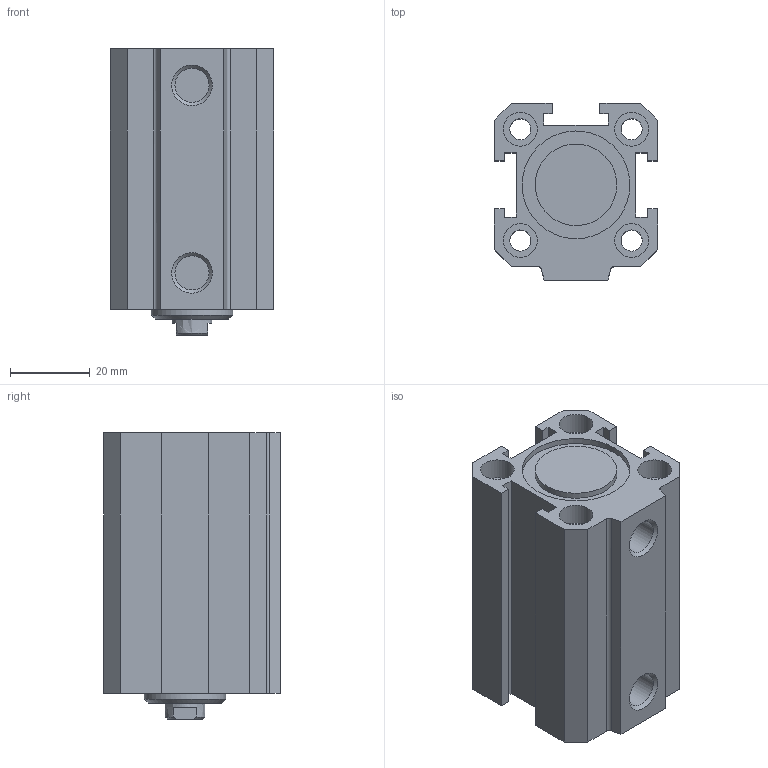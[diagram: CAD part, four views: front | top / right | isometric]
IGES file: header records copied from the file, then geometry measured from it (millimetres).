
Global section: file name: 1511_25_0030; native system: Autodesk Inventor 2014; preprocessor: unknown; author: A. Manieri; date: 20160824.111857; units: millimetre
Bounding box: 41 x 44.5 x 72 mm (x, y, z)
Volume: 75612 mm3; surface area: 30973.8 mm2
Topology: 2 solids, 2 shells, 93 faces, 241 edges, 170 vertices
Faces by surface type: bspline 93
